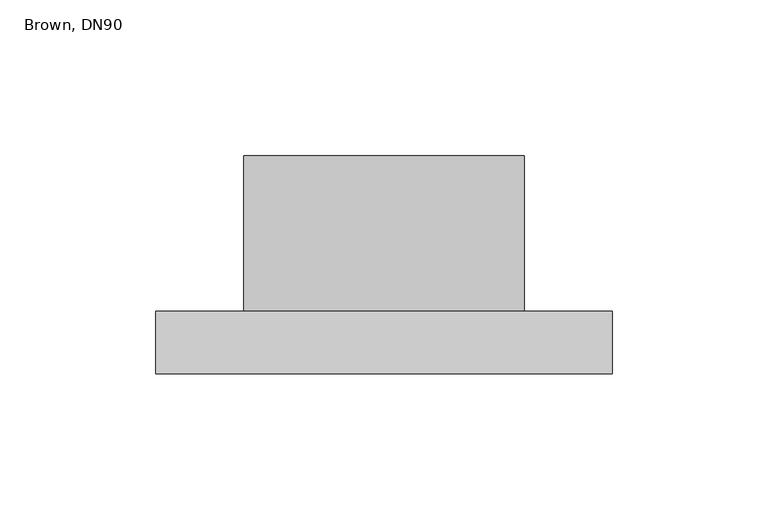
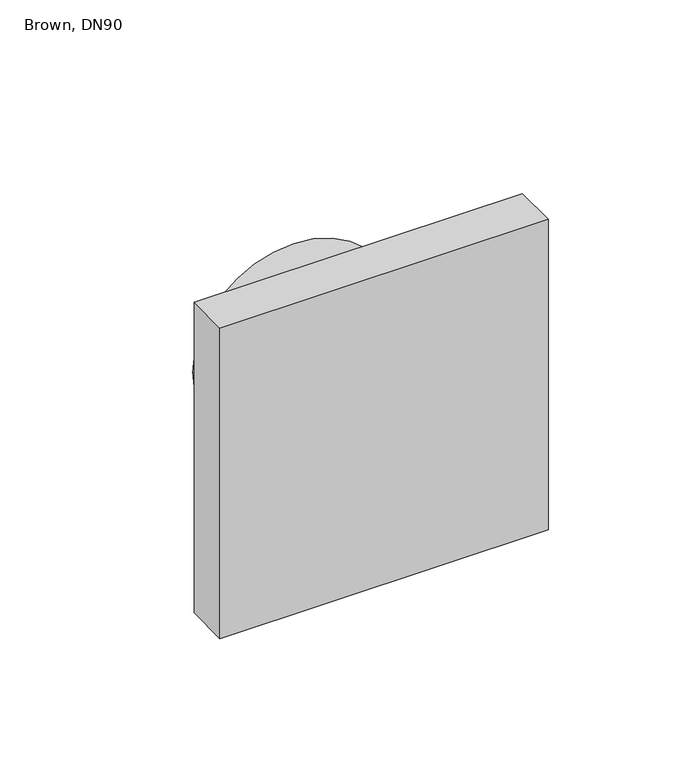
"""IFC4 building model written with IfcOpenShell, lengths in millimetres: valve geometry, MASTER 3 PLUS Aeration valve : Brown, DN90."""

from ifc_helpers import new_model, si_unit, point, frame, origin, origin_2d, place, context, project, spatial, polyline, circle_curve, trimmed, segment, composite_curve, outline, extrude, source, transform, mapped, element, save


def brown_dn90_c37132f0(model_context):
    return source(origin(), model_context, "Body", "SweptSolid", [
        extrude(outline(polyline([(73.3, -20.0), (-73.3, -20.0), (-73.3, 0.0), (73.3, 0.0), (73.3, -20.0)])), frame((0.0, 0.0, -73.3), z_axis=(0.0, 0.0, 1.0), x_axis=(1.0, 0.0, 0.0)), (0.0, 0.0, 1.0), 146.6),
        extrude(outline(composite_curve([segment(trimmed(circle_curve(origin_2d(), 45.0), [point((0.0, -45.0))], [point((0.0, 45.0))], False, "CARTESIAN"), True, "CONTINUOUS"), segment(trimmed(circle_curve(origin_2d(), 45.0), [point((0.0, 45.0))], [point((0.0, -45.0))], False, "CARTESIAN"), True, "CONTINUOUS")], self_intersect=False)), frame((0.0, 0.0, 0.0), z_axis=(0.0, 1.0, 0.0), x_axis=(0.0, 0.0, 1.0)), (0.0, 0.0, 1.0), 50.0),
    ])


if __name__ == "__main__":
    model = new_model("IFC4")
    model_context = context("Model", 3, world=origin())
    ifc_project = project(units=[si_unit("LENGTHUNIT", "METRE", prefix="MILLI")], contexts=[model_context])
    site = spatial("IfcSite", under=ifc_project)
    building = spatial("IfcBuilding", under=site)
    placement = place(None, origin())
    brown_dn90_shape = brown_dn90_c37132f0(model_context)
    element("IfcValve", 1, ObjectType="MASTER 3 PLUS Aeration valve : Brown, DN90", at=placement, inside=building, context=model_context, shape_type="MappedRepresentation", body=[
        mapped(brown_dn90_shape, transform((0.0, 0.0, 0.0), x_axis=(1.0, 0.0, 0.0), y_axis=(0.0, 1.0, 0.0), z_axis=(0.0, 0.0, 1.0))),
    ])
    save(model, "model.ifc")
